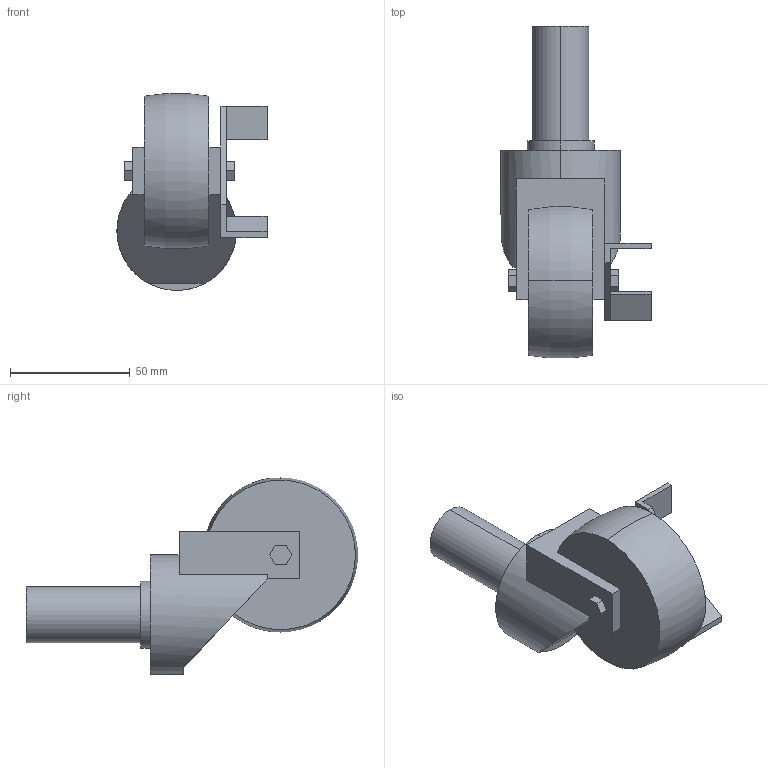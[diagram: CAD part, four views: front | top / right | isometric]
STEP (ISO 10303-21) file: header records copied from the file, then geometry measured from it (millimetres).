
FILE_DESCRIPTION (( 'STEP AP214' ), '1' );
FILE_NAME ('SGR65S CTP.step', '2024-02-15T04:36:17', ( 'catia' ), ( 'HP Inc.' ), 'SwSTEP 2.0', 'SolidWorks 2021', '' );
FILE_SCHEMA (( 'AUTOMOTIVE_DESIGN' ));
Length unit declared in the file: millimetre
Products named in the file (1): SGR65S CTP
Bounding box: 62.8 x 138.86 x 82.36 mm (x, y, z)
Volume: 181343.9 mm3; surface area: 25937.7 mm2
Topology: 1 solids, 1 shells, 56 faces, 142 edges, 92 vertices
Faces by surface type: plane 47, cylinder 6, torus 3
Entity records: 1709 total; most frequent: CARTESIAN_POINT 310, ORIENTED_EDGE 284, DIRECTION 276, EDGE_CURVE 142, VECTOR 114, LINE 114, VERTEX_POINT 92, AXIS2_PLACEMENT_3D 81
